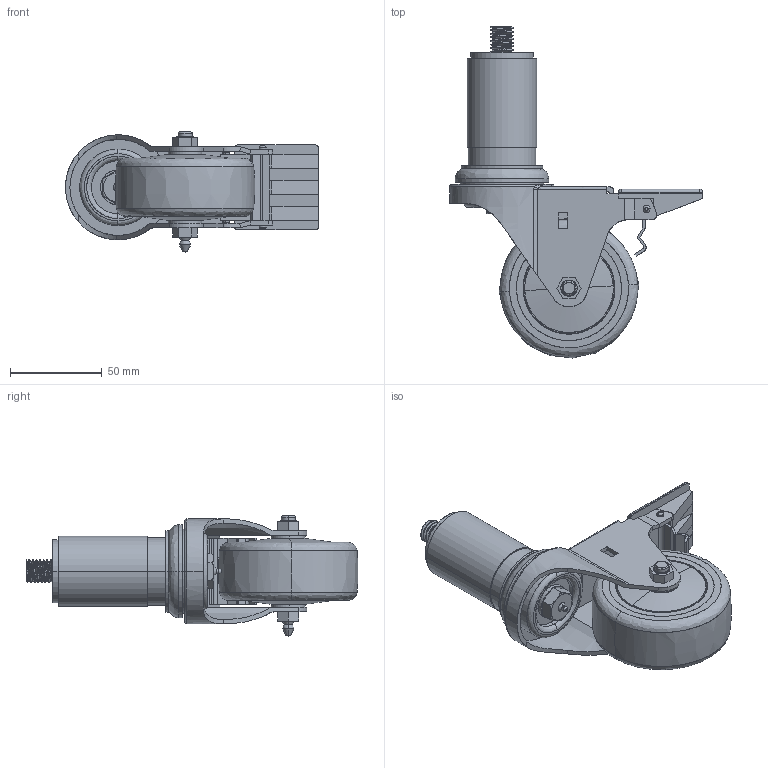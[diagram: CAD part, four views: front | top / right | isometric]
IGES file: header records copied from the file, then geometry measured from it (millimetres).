
Start section: SolidWorks IGES file using analytic representation for surfaces
Global section: file name: \\192.168.10.26\nimesh\Tyler Manz\Output\2024\2024-10-11\1.5'' Expanding Stem Caster - 3'' Non Marking Orange Polyurethane Wheel with Posi Lock\SCC-EX20S314-PPUB-ORG-PLB-112 3D IGES.IGS; native system: SolidWorks 2016; preprocessor: SolidWorks 2016; author: kathan.gandhi; date: 241011.102748; units: inch
Bounding box: 137.79 x 180.85 x 65.38 mm (x, y, z)
Surface area: 80759.4 mm2 (no closed solid volume)
Topology: 0 solids, 0 shells, 493 faces, 8045 edges, 8025 vertices
Faces by surface type: bspline 338, revolution 155
